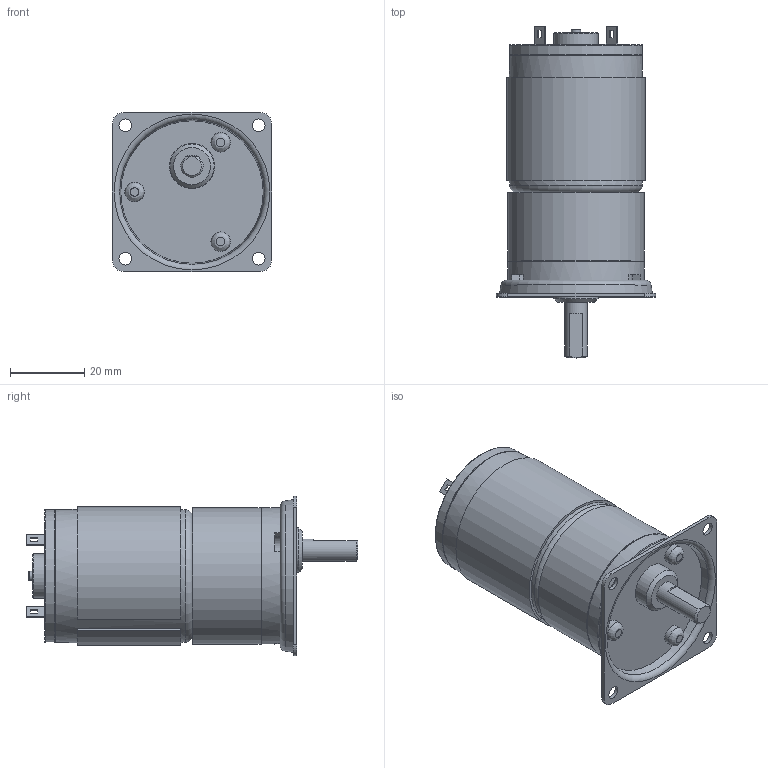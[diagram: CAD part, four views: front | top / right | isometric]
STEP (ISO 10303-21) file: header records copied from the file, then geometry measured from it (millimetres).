
FILE_DESCRIPTION((''),'2;1');
FILE_NAME('C:\Documents and Settings\SSEGAWA\デスクトップ\TP-3640B-PKS-3.STP','2013-07-18T17:09:19',('SSEGAWA'),(''),'Autodesk Inventor 2010','Autodesk Inventor 2010','');
FILE_SCHEMA(('CONFIG_CONTROL_DESIGN'));
Length unit declared in the file: millimetre
Products named in the file (1): tp_3640bce_pks_3_Shrinkwrap_1
Bounding box: 43 x 89.7 x 43 mm (x, y, z)
Volume: 71782.1 mm3; surface area: 14843.5 mm2
Topology: 10 solids, 10 shells, 136 faces, 302 edges, 200 vertices
Faces by surface type: plane 73, bspline 27, cylinder 26, cone 5, torus 5
Full cylindrical faces by diameter (mm): 2.5 x1, 4 x1, 4.5 x1, 5.3 x3, 6 x1, 12 x2, 12.2 x1, 35.6 x1, 36 x2, 36.6 x1, 37 x2
Entity records: 3883 total; most frequent: CARTESIAN_POINT 1024, DIRECTION 543, ORIENTED_EDGE 452, EDGE_CURVE 226, EDGE_LOOP 211, AXIS2_PLACEMENT_3D 209, VERTEX_POINT 173, STYLED_ITEM 146
